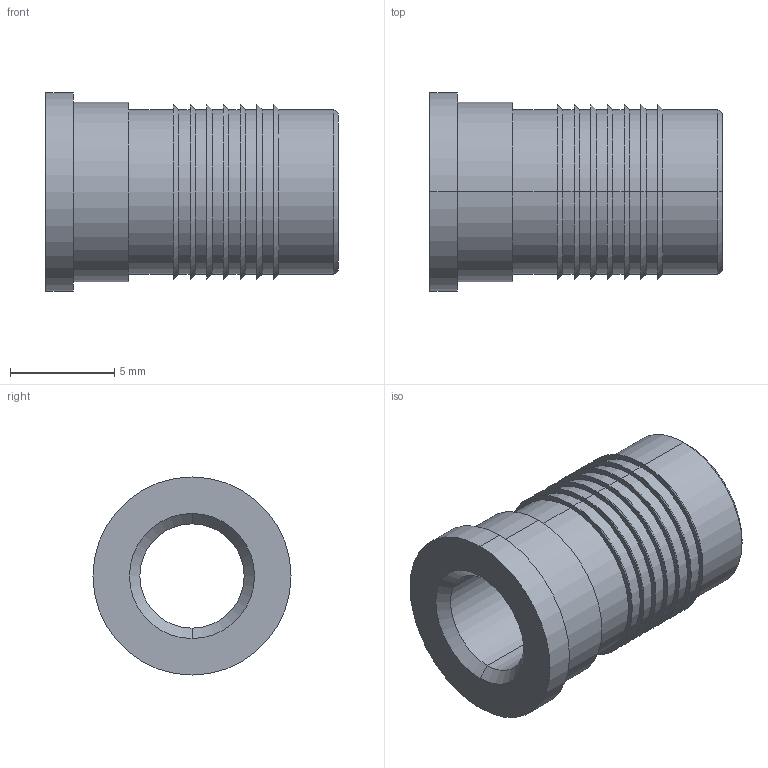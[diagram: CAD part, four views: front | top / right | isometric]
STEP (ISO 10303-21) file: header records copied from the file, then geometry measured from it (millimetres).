
FILE_DESCRIPTION (( 'STEP AP203' ), '1' );
FILE_NAME ('FSUK-PUH-M06-S.STEP', '2021-04-15T12:39:12', ( '' ), ( '' ), 'SwSTEP 2.0', 'SolidWorks 2021', '' );
FILE_SCHEMA (( 'CONFIG_CONTROL_DESIGN' ));
Length unit declared in the file: millimetre
Products named in the file (1): FSUK-PUH-M06-S
Bounding box: 14.02 x 9.5 x 9.5 mm (x, y, z)
Volume: 465.7 mm3; surface area: 736.4 mm2
Topology: 1 solids, 1 shells, 53 faces, 106 edges, 64 vertices
Faces by surface type: cylinder 22, cone 20, plane 11
Entity records: 1465 total; most frequent: DIRECTION 278, CARTESIAN_POINT 224, ORIENTED_EDGE 212, AXIS2_PLACEMENT_3D 118, EDGE_CURVE 106, VERTEX_POINT 64, EDGE_LOOP 64, CIRCLE 64
